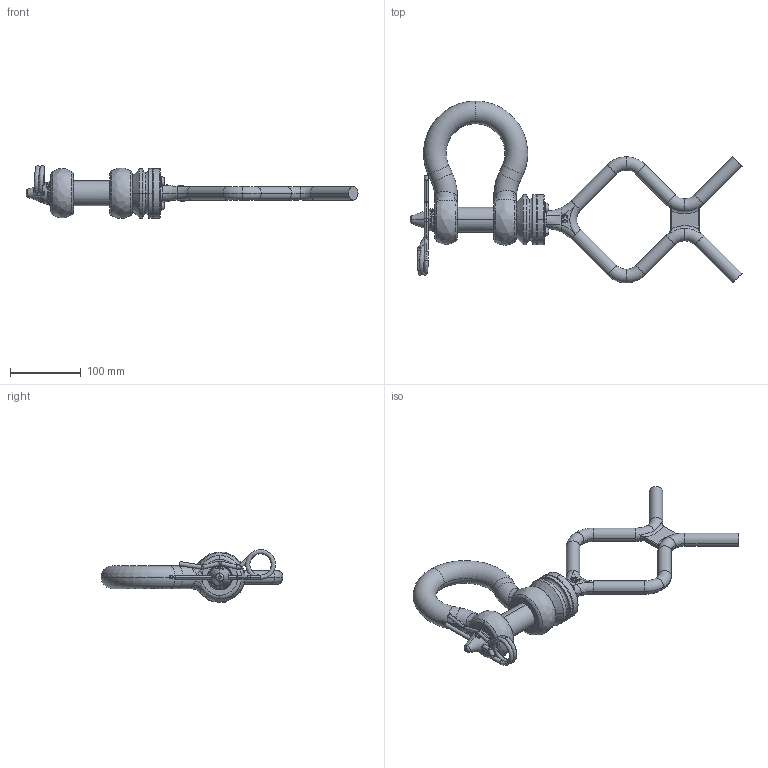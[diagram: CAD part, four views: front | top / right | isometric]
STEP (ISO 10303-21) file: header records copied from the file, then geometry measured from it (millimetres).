
FILE_DESCRIPTION(('STEP AP203'),'1');
FILE_NAME('poghbb32rovrltf.stp','2026-04-27T10:35:31',('TraceParts'),('TraceParts S.A.S.'),'Spatial InterOp 3D',' ',' ');
FILE_SCHEMA(('CONFIG_CONTROL_DESIGN'));
Length unit declared in the file: millimetre
Products named in the file (1): 1
Bounding box: 468.25 x 256.6 x 74.43 mm (x, y, z)
Volume: 879508.5 mm3; surface area: 158902.5 mm2
Topology: 12 solids, 12 shells, 1001 faces, 2642 edges, 1685 vertices
Faces by surface type: plane 381, bspline 273, cylinder 172, torus 120, cone 55
Entity records: 61809 total; most frequent: CARTESIAN_POINT 38698, ORIENTED_EDGE 5220, DIRECTION 4260, EDGE_CURVE 2610, VERTEX_POINT 1685, AXIS2_PLACEMENT_3D 1613, EDGE_LOOP 1079, LINE 1034
